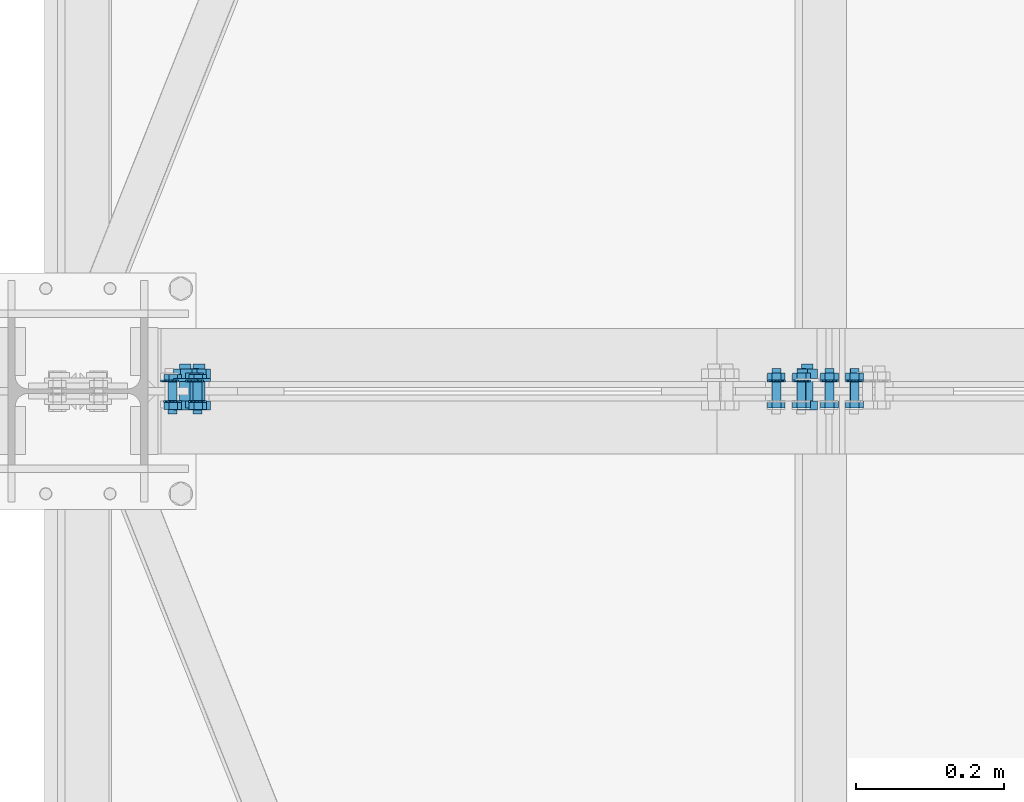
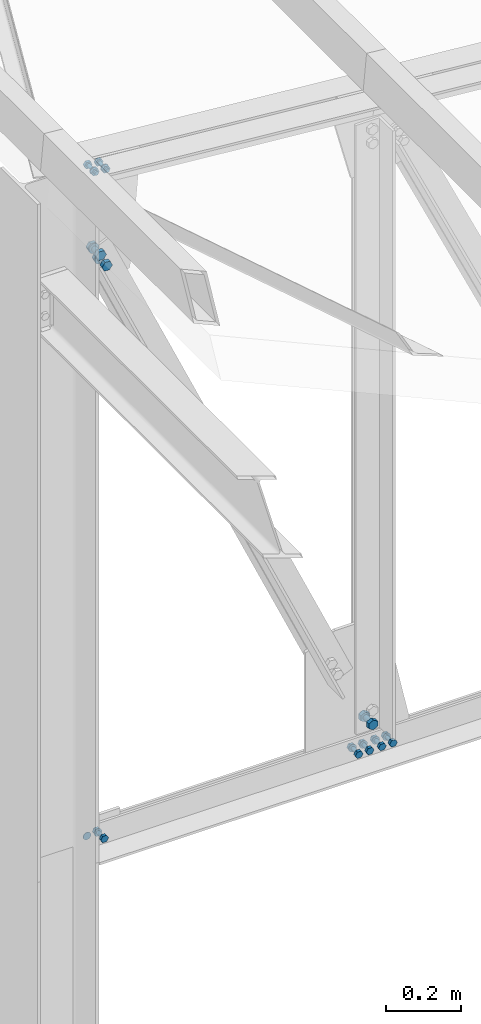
# One storey, part 74 of 251: 40 mechanical fasteners.
"""IFC4 building model written with IfcOpenShell, lengths in metres."""

import ifcopenshell
import ifcopenshell.guid

model = None  # the IFC model being written
_history = None  # IfcOwnerHistory: only IFC2X3 demands one
_inside = {}  # id of a spatial element -> (the spatial element, [elements in it])
_under = {}  # id of a project, library or spatial element -> (it, [spatial elements below it])
_declared = {}  # id of a project -> (the project, [libraries it declares])
_typed = {}  # id of a type object -> (the type object, [elements of that type])
_made_of = {}  # id of a material, layer set ... -> (it, [elements and type objects made of it])


def new_model(schema):
    """Start an empty IFC model of exactly this schema.

    Asked for "IFC4X3", IfcOpenShell would pick the latest addendum, in which some entities
    have other attributes; the version numbers below select the first issue.
    IFC2X3 requires an IfcOwnerHistory on every rooted entity: one is made here for all.
    """
    global model, _history
    if schema == "IFC4X3":
        model = ifcopenshell.file(schema_version=(4, 3, 0, 0))
    else:
        model = ifcopenshell.file(schema=schema)
    _inside.clear()
    _under.clear()
    _declared.clear()
    _typed.clear()
    _made_of.clear()
    _history = None
    if model.schema == "IFC2X3":
        org = make("IfcOrganization", Name="unknown")
        user = make(
            "IfcPersonAndOrganization",
            ThePerson=make("IfcPerson", FamilyName="unknown"),
            TheOrganization=org,
        )
        app = make(
            "IfcApplication",
            ApplicationDeveloper=org,
            Version="unknown",
            ApplicationFullName="unknown",
            ApplicationIdentifier="unknown",
        )
        _history = make(
            "IfcOwnerHistory",
            OwningUser=user,
            OwningApplication=app,
            ChangeAction="ADDED",
            CreationDate=0,
        )
    return model


def make(cls, **values):
    """One entity of the class cls with the attributes given. An attribute that is None is left unset."""
    return model.create_entity(
        cls, **{name: value for name, value in values.items() if value is not None}
    )


def rooted(cls, **values):
    """An entity with a GlobalId (a new one), such as an element, a storey or a relation."""
    return make(cls, GlobalId=ifcopenshell.guid.new(), OwnerHistory=_history, **values)


def si_unit(unit_type, name, prefix=None):
    """IfcSIUnit, for example si_unit("LENGTHUNIT", "METRE", prefix="MILLI")."""
    return make("IfcSIUnit", UnitType=unit_type, Prefix=prefix, Name=name)


def assignment(units):
    """IfcUnitAssignment: the units of a project."""
    return None if units is None else make("IfcUnitAssignment", Units=units)


def point(xyz):
    """IfcCartesianPoint."""
    return None if xyz is None else make("IfcCartesianPoint", Coordinates=xyz)


def direction(xyz):
    """IfcDirection."""
    return None if xyz is None else make("IfcDirection", DirectionRatios=xyz)


def frame(location, z_axis=None, x_axis=None):
    """IfcAxis2Placement3D, a coordinate frame: its origin and axes. An axis left out is left unset."""
    return make(
        "IfcAxis2Placement3D",
        Location=point(location),
        Axis=direction(z_axis),
        RefDirection=direction(x_axis),
    )


def origin_with_axes():
    """The frame at (0, 0, 0) with the z axis (0, 0, 1) and the x axis (1, 0, 0) written out."""
    return frame((0.0, 0.0, 0.0), z_axis=(0.0, 0.0, 1.0), x_axis=(1.0, 0.0, 0.0))


def place(relative_to, where):
    """IfcLocalPlacement: puts the frame where relative to a parent placement (None: the world)."""
    return make(
        "IfcLocalPlacement", PlacementRelTo=relative_to, RelativePlacement=where
    )


def context(
    kind, dimensions, precision=None, world=None, true_north=None, identifier=None
):
    """IfcGeometricRepresentationContext, for example the 3D "Model" context."""
    return make(
        "IfcGeometricRepresentationContext",
        ContextIdentifier=identifier,
        ContextType=kind,
        CoordinateSpaceDimension=dimensions,
        Precision=precision,
        WorldCoordinateSystem=world,
        TrueNorth=true_north,
    )


def project(units=None, contexts=None):
    """IfcProject with its units and contexts."""
    return rooted(
        "IfcProject",
        Name="project",
        RepresentationContexts=contexts,
        UnitsInContext=assignment(units),
    )


def spatial(cls, under=None, at=None, **own):
    """A site, building, storey or space (cls), placed at a placement, below another one or the project."""
    s = rooted(cls, ObjectPlacement=at, **own)
    if under is not None:
        _under.setdefault(under.id(), (under, []))[1].append(s)
    return s


def polyline(points):
    """IfcPolyline through the points."""
    return make("IfcPolyline", Points=[point(p) for p in points])


def outline(outer, holes=None, kind="AREA"):
    """IfcArbitraryClosedProfileDef: a profile drawn as a closed curve; with holes, ...WithVoids."""
    if holes is None:
        return make("IfcArbitraryClosedProfileDef", ProfileType=kind, OuterCurve=outer)
    return make(
        "IfcArbitraryProfileDefWithVoids",
        ProfileType=kind,
        OuterCurve=outer,
        InnerCurves=holes,
    )


def extrude(swept, where, along, depth):
    """IfcExtrudedAreaSolid: the profile swept, set in the frame where, extruded along a direction by depth."""
    return make(
        "IfcExtrudedAreaSolid",
        SweptArea=swept,
        Position=where,
        ExtrudedDirection=direction(along),
        Depth=depth,
    )


def shape(context_of_items, identifier, shape_type, items):
    """IfcShapeRepresentation: the items that make up one representation, for example the "Body"."""
    return make(
        "IfcShapeRepresentation",
        ContextOfItems=context_of_items,
        RepresentationIdentifier=identifier,
        RepresentationType=shape_type,
        Items=items,
    )


def made_of(thing, what):
    """Note that an element or type object is made of a material, layer set ...; save() writes the relation."""
    if what is not None:
        _made_of.setdefault(what.id(), (what, []))[1].append(thing)
    return thing


def type_object(cls, material=None, **own):
    """A type object (cls), such as IfcWallType, which elements share."""
    return made_of(rooted(cls, **own), material)


def element(
    cls,
    number,
    at=None,
    inside=None,
    cuts=None,
    type_object=None,
    material=None,
    context=None,
    identifier="Body",
    shape_type=None,
    held_by="IfcProductDefinitionShape",
    body=None,
    shapes=None,
    **own,
):
    """One element of the class cls, such as IfcWall. Its Tag is "e" and its number.

    at: its placement. inside: the storey or other place that contains it. cuts: it is an
    opening in that element (IfcRelVoidsElement). A single representation is given by context,
    identifier, shape_type and body (its items); several are given by shapes. held_by: the class
    of the entity that holds the representations. save() writes the other relations.
    """
    e = rooted(cls, Tag="e%d" % number, ObjectPlacement=at, **own)
    if body is not None:
        shapes = [shape(context, identifier, shape_type, body)]
    if shapes is not None:
        e.Representation = make(held_by, Representations=shapes)
    if inside is not None:
        _inside.setdefault(inside.id(), (inside, []))[1].append(e)
    if cuts is not None:
        rooted(
            "IfcRelVoidsElement", RelatingBuildingElement=cuts, RelatedOpeningElement=e
        )
    if type_object is not None:
        _typed.setdefault(type_object.id(), (type_object, []))[1].append(e)
    return made_of(e, material)


def aggregate(whole, parts):
    """IfcRelAggregates: a whole, such as a stair, and the parts it consists of."""
    return rooted("IfcRelAggregates", RelatingObject=whole, RelatedObjects=parts)


def save(model, path):
    """Write the relations noted so far, then the file.

    IfcRelAggregates (storeys below a building ...), IfcRelContainedInSpatialStructure (elements
    in a storey), IfcRelDefinesByType, IfcRelAssociatesMaterial and IfcRelDeclares: one each for
    every whole, place, type object, material and project.
    """
    for whole, parts in _under.values():
        aggregate(whole, parts)
    for where, things in _inside.values():
        rooted(
            "IfcRelContainedInSpatialStructure",
            RelatedElements=things,
            RelatingStructure=where,
        )
    for kind, things in _typed.values():
        rooted("IfcRelDefinesByType", RelatedObjects=things, RelatingType=kind)
    for what, things in _made_of.values():
        rooted("IfcRelAssociatesMaterial", RelatedObjects=things, RelatingMaterial=what)
    for by, libraries in _declared.values():
        rooted("IfcRelDeclares", RelatingContext=by, RelatedDefinitions=libraries)
    model.write(path)


model = new_model("IFC4")

# Units and contexts
model_context = context("Model", 3, precision=1e-05, world=origin_with_axes())
ifc_project = project(units=[si_unit("LENGTHUNIT", "METRE"), si_unit("AREAUNIT", "SQUARE_METRE"), si_unit("VOLUMEUNIT", "CUBIC_METRE"), si_unit("MASSUNIT", "GRAM", prefix="KILO"), si_unit("TIMEUNIT", "SECOND"), si_unit("PLANEANGLEUNIT", "RADIAN"), si_unit("SOLIDANGLEUNIT", "STERADIAN"), si_unit("THERMODYNAMICTEMPERATUREUNIT", "DEGREE_CELSIUS")], contexts=[model_context])

# Site, building, storey
placement_1 = place(None, origin_with_axes())
site = spatial("IfcSite", under=ifc_project, at=placement_1, Name="Italia", CompositionType="ELEMENT")
building = spatial("IfcBuilding", under=site, at=placement_1, Name="Deposito", CompositionType="ELEMENT")
storey = spatial("IfcBuildingStorey", under=building, at=placement_1, Name="Storey 0", CompositionType="ELEMENT", Elevation=0.0)

# Mechanical fasteners
mechanical_fastener_type_1 = type_object("IfcMechanicalFastenerType", Name="Reticolare 3", PredefinedType="BOLT")
placement_2 = place(placement_1, origin_with_axes())
mechanical_fastener_1_placement = place(placement_2, origin_with_axes())
element("IfcMechanicalFastener", 1, at=mechanical_fastener_1_placement, inside=storey, type_object=mechanical_fastener_type_1, Name="Reticolare 3", NominalDiameter=0.024, context=model_context, shape_type="SweptSolid", body=[
    extrude(outline(polyline([(0.0, 0.0), (-0.000409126, -0.00310564), (-0.00160789, -0.00600004), (-0.00351477, -0.00848532), (-0.00600004, -0.0103922), (-0.00889444, -0.011591), (-0.0120001, -0.0120001), (-0.0151057, -0.011591), (-0.0180001, -0.0103922), (-0.0204854, -0.00848532), (-0.0223923, -0.00600004), (-0.023591, -0.00310564), (-0.0240002, 0.0), (-0.023591, 0.00310564), (-0.0223923, 0.00600004), (-0.0204854, 0.00848532), (-0.0180001, 0.0103922), (-0.0151057, 0.011591), (-0.0120001, 0.0120001), (-0.00889444, 0.011591), (-0.00600004, 0.0103922), (-0.00351477, 0.00848532), (-0.00160789, 0.00600004), (-0.000409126, 0.00310564), (0.0, 0.0)])), frame((6.18605, 5.015, 5.007), z_axis=(0.0, -1.0, 0.0), x_axis=(1.0, 0.0, 0.0)), (0.0, 0.0, 1.0), 0.00199986),
])
mechanical_fastener_type_2 = type_object("IfcMechanicalFastenerType", Name="Reticolare 3", PredefinedType="BOLT")
mechanical_fastener_2_placement = place(placement_2, origin_with_axes())
element("IfcMechanicalFastener", 2, at=mechanical_fastener_2_placement, inside=storey, type_object=mechanical_fastener_type_2, Name="Reticolare 3", NominalDiameter=0.0119999, context=model_context, shape_type="SweptSolid", body=[
    extrude(outline(polyline([(0.0, 0.0), (-0.0120001, 0.0), (-0.0180001, 0.0103922), (-0.0120001, 0.0207844), (0.0, 0.0207844), (0.00600004, 0.0103922), (0.0, 0.0)])), frame((6.21405, 4.987, 4.99661), z_axis=(0.0, -1.0, 0.0), x_axis=(1.0, 0.0, 0.0)), (0.0, 0.0, 1.0), 0.00960016),
])
mechanical_fastener_type_3 = type_object("IfcMechanicalFastenerType", Name="Reticolare 3", PredefinedType="BOLT")
mechanical_fastener_3_placement = place(placement_2, origin_with_axes())
element("IfcMechanicalFastener", 3, at=mechanical_fastener_3_placement, inside=storey, type_object=mechanical_fastener_type_3, Name="Reticolare 3", NominalDiameter=0.012, context=model_context, shape_type="SweptSolid", body=[
    extrude(outline(polyline([(0.0, 0.0), (-0.000204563, -0.00155306), (-0.000803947, -0.00299978), (-0.00175762, -0.00424242), (-0.00300026, -0.00519609), (-0.00444698, -0.00579548), (-0.00600004, -0.00600004), (-0.0075531, -0.00579548), (-0.00899982, -0.00519609), (-0.0102425, -0.00424242), (-0.0111961, -0.00299978), (-0.0117955, -0.00155306), (-0.0120001, 0.0), (-0.0117955, 0.00155306), (-0.0111961, 0.00299978), (-0.0102425, 0.00424242), (-0.00899982, 0.00519609), (-0.0075531, 0.00579548), (-0.00600004, 0.00600004), (-0.00444698, 0.00579548), (-0.00300026, 0.00519609), (-0.00175762, 0.00424242), (-0.000803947, 0.00299978), (-0.000204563, 0.00155306), (0.0, 0.0)])), frame((6.21405, 5.031, 5.007), z_axis=(0.0, -1.0, 0.0), x_axis=(1.0, 0.0, 0.0)), (0.0, 0.0, 1.0), 0.0440001),
])
mechanical_fastener_type_4 = type_object("IfcMechanicalFastenerType", Name="Reticolare 3", PredefinedType="BOLT")
mechanical_fastener_4_placement = place(placement_2, origin_with_axes())
element("IfcMechanicalFastener", 4, at=mechanical_fastener_4_placement, inside=storey, type_object=mechanical_fastener_type_4, Name="Reticolare 3", NominalDiameter=0.0119999, context=model_context, shape_type="SweptSolid", body=[
    extrude(outline(polyline([(0.0, 0.0), (-0.0120001, 0.0), (-0.0180001, 0.0103922), (-0.0120001, 0.0207844), (0.0, 0.0207844), (0.00600004, 0.0103922), (0.0, 0.0)])), frame((6.21405, 5.0246, 4.99661), z_axis=(0.0, -1.0, 0.0), x_axis=(1.0, 0.0, 0.0)), (0.0, 0.0, 1.0), 0.00960016),
])
mechanical_fastener_type_5 = type_object("IfcMechanicalFastenerType", Name="Reticolare 3", PredefinedType="BOLT")
mechanical_fastener_5_placement = place(placement_2, origin_with_axes())
element("IfcMechanicalFastener", 5, at=mechanical_fastener_5_placement, inside=storey, type_object=mechanical_fastener_type_5, Name="Reticolare 3", NominalDiameter=0.024, context=model_context, shape_type="SweptSolid", body=[
    extrude(outline(polyline([(0.0, 0.0), (-0.000409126, -0.00310564), (-0.00160789, -0.00600004), (-0.00351477, -0.00848532), (-0.00600004, -0.0103922), (-0.00889444, -0.011591), (-0.0120001, -0.0120001), (-0.0151057, -0.011591), (-0.0180001, -0.0103922), (-0.0204854, -0.00848532), (-0.0223923, -0.00600004), (-0.023591, -0.00310564), (-0.0240002, 0.0), (-0.023591, 0.00310564), (-0.0223923, 0.00600004), (-0.0204854, 0.00848532), (-0.0180001, 0.0103922), (-0.0151057, 0.011591), (-0.0120001, 0.0120001), (-0.00889444, 0.011591), (-0.00600004, 0.0103922), (-0.00351477, 0.00848532), (-0.00160789, 0.00600004), (-0.000409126, 0.00310564), (0.0, 0.0)])), frame((6.22005, 5.015, 5.007), z_axis=(0.0, -1.0, 0.0), x_axis=(1.0, 0.0, 0.0)), (0.0, 0.0, 1.0), 0.00199986),
])
mechanical_fastener_type_6 = type_object("IfcMechanicalFastenerType", Name="Reticolare 3", PredefinedType="BOLT")
mechanical_fastener_6_placement = place(placement_2, origin_with_axes())
element("IfcMechanicalFastener", 6, at=mechanical_fastener_6_placement, inside=storey, type_object=mechanical_fastener_type_6, Name="Reticolare 3", NominalDiameter=0.0119999, context=model_context, shape_type="SweptSolid", body=[
    extrude(outline(polyline([(0.0, 0.0), (-0.0120001, 0.0), (-0.0180001, 0.0103922), (-0.0120001, 0.0207844), (0.0, 0.0207844), (0.00600004, 0.0103922), (0.0, 0.0)])), frame((7.03647, 4.987, 4.99661), z_axis=(0.0, -1.0, 0.0), x_axis=(1.0, 0.0, 0.0)), (0.0, 0.0, 1.0), 0.00960016),
])
mechanical_fastener_type_7 = type_object("IfcMechanicalFastenerType", Name="Reticolare 3", PredefinedType="BOLT")
mechanical_fastener_7_placement = place(placement_2, origin_with_axes())
element("IfcMechanicalFastener", 7, at=mechanical_fastener_7_placement, inside=storey, type_object=mechanical_fastener_type_7, Name="Reticolare 3", NominalDiameter=0.012, context=model_context, shape_type="SweptSolid", body=[
    extrude(outline(polyline([(0.0, 0.0), (-0.000204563, -0.00155306), (-0.000803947, -0.00299978), (-0.00175762, -0.00424242), (-0.00300026, -0.00519609), (-0.00444698, -0.00579548), (-0.00600004, -0.00600004), (-0.0075531, -0.00579548), (-0.00899982, -0.00519609), (-0.0102425, -0.00424242), (-0.0111961, -0.00299978), (-0.0117955, -0.00155306), (-0.0120001, 0.0), (-0.0117955, 0.00155306), (-0.0111961, 0.00299978), (-0.0102425, 0.00424242), (-0.00899982, 0.00519609), (-0.0075531, 0.00579548), (-0.00600004, 0.00600004), (-0.00444698, 0.00579548), (-0.00300026, 0.00519609), (-0.00175762, 0.00424242), (-0.000803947, 0.00299978), (-0.000204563, 0.00155306), (0.0, 0.0)])), frame((7.03647, 5.031, 5.007), z_axis=(0.0, -1.0, 0.0), x_axis=(1.0, 0.0, 0.0)), (0.0, 0.0, 1.0), 0.0440001),
])
mechanical_fastener_type_8 = type_object("IfcMechanicalFastenerType", Name="Reticolare 3", PredefinedType="BOLT")
mechanical_fastener_8_placement = place(placement_2, origin_with_axes())
element("IfcMechanicalFastener", 8, at=mechanical_fastener_8_placement, inside=storey, type_object=mechanical_fastener_type_8, Name="Reticolare 3", NominalDiameter=0.0119999, context=model_context, shape_type="SweptSolid", body=[
    extrude(outline(polyline([(0.0, 0.0), (-0.0120001, 0.0), (-0.0180001, 0.0103922), (-0.0120001, 0.0207844), (0.0, 0.0207844), (0.00600004, 0.0103922), (0.0, 0.0)])), frame((7.03647, 5.0246, 4.99661), z_axis=(0.0, -1.0, 0.0), x_axis=(1.0, 0.0, 0.0)), (0.0, 0.0, 1.0), 0.00960016),
])
mechanical_fastener_type_9 = type_object("IfcMechanicalFastenerType", Name="Reticolare 3", PredefinedType="BOLT")
mechanical_fastener_9_placement = place(placement_2, origin_with_axes())
element("IfcMechanicalFastener", 9, at=mechanical_fastener_9_placement, inside=storey, type_object=mechanical_fastener_type_9, Name="Reticolare 3", NominalDiameter=0.024, context=model_context, shape_type="SweptSolid", body=[
    extrude(outline(polyline([(0.0, 0.0), (-0.000409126, -0.00310564), (-0.00160789, -0.00600004), (-0.00351477, -0.00848532), (-0.00600004, -0.0103922), (-0.00889444, -0.011591), (-0.0120001, -0.0120001), (-0.0151057, -0.011591), (-0.0180001, -0.0103922), (-0.0204854, -0.00848532), (-0.0223923, -0.00600004), (-0.023591, -0.00310564), (-0.0240002, 0.0), (-0.023591, 0.00310564), (-0.0223923, 0.00600004), (-0.0204854, 0.00848532), (-0.0180001, 0.0103922), (-0.0151057, 0.011591), (-0.0120001, 0.0120001), (-0.00889444, 0.011591), (-0.00600004, 0.0103922), (-0.00351477, 0.00848532), (-0.00160789, 0.00600004), (-0.000409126, 0.00310564), (0.0, 0.0)])), frame((7.04247, 5.015, 5.007), z_axis=(0.0, -1.0, 0.0), x_axis=(1.0, 0.0, 0.0)), (0.0, 0.0, 1.0), 0.00199986),
])
mechanical_fastener_type_10 = type_object("IfcMechanicalFastenerType", Name="Reticolare 3", PredefinedType="BOLT")
mechanical_fastener_10_placement = place(placement_2, origin_with_axes())
element("IfcMechanicalFastener", 10, at=mechanical_fastener_10_placement, inside=storey, type_object=mechanical_fastener_type_10, Name="Reticolare 3", NominalDiameter=0.0119999, context=model_context, shape_type="SweptSolid", body=[
    extrude(outline(polyline([(0.0, 0.0), (-0.0120001, 0.0), (-0.0180001, 0.0103922), (-0.0120001, 0.0207844), (0.0, 0.0207844), (0.00600004, 0.0103922), (0.0, 0.0)])), frame((7.00247, 4.987, 4.99661), z_axis=(0.0, -1.0, 0.0), x_axis=(1.0, 0.0, 0.0)), (0.0, 0.0, 1.0), 0.00960016),
])
mechanical_fastener_type_11 = type_object("IfcMechanicalFastenerType", Name="Reticolare 3", PredefinedType="BOLT")
mechanical_fastener_11_placement = place(placement_2, origin_with_axes())
element("IfcMechanicalFastener", 11, at=mechanical_fastener_11_placement, inside=storey, type_object=mechanical_fastener_type_11, Name="Reticolare 3", NominalDiameter=0.012, context=model_context, shape_type="SweptSolid", body=[
    extrude(outline(polyline([(0.0, 0.0), (-0.000204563, -0.00155306), (-0.000803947, -0.00299978), (-0.00175762, -0.00424242), (-0.00300026, -0.00519609), (-0.00444698, -0.00579548), (-0.00600004, -0.00600004), (-0.0075531, -0.00579548), (-0.00899982, -0.00519609), (-0.0102425, -0.00424242), (-0.0111961, -0.00299978), (-0.0117955, -0.00155306), (-0.0120001, 0.0), (-0.0117955, 0.00155306), (-0.0111961, 0.00299978), (-0.0102425, 0.00424242), (-0.00899982, 0.00519609), (-0.0075531, 0.00579548), (-0.00600004, 0.00600004), (-0.00444698, 0.00579548), (-0.00300026, 0.00519609), (-0.00175762, 0.00424242), (-0.000803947, 0.00299978), (-0.000204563, 0.00155306), (0.0, 0.0)])), frame((7.00247, 5.031, 5.007), z_axis=(0.0, -1.0, 0.0), x_axis=(1.0, 0.0, 0.0)), (0.0, 0.0, 1.0), 0.0440001),
])
mechanical_fastener_type_12 = type_object("IfcMechanicalFastenerType", Name="Reticolare 3", PredefinedType="BOLT")
mechanical_fastener_12_placement = place(placement_2, origin_with_axes())
element("IfcMechanicalFastener", 12, at=mechanical_fastener_12_placement, inside=storey, type_object=mechanical_fastener_type_12, Name="Reticolare 3", NominalDiameter=0.0119999, context=model_context, shape_type="SweptSolid", body=[
    extrude(outline(polyline([(0.0, 0.0), (-0.0120001, 0.0), (-0.0180001, 0.0103922), (-0.0120001, 0.0207844), (0.0, 0.0207844), (0.00600004, 0.0103922), (0.0, 0.0)])), frame((7.00247, 5.0246, 4.99661), z_axis=(0.0, -1.0, 0.0), x_axis=(1.0, 0.0, 0.0)), (0.0, 0.0, 1.0), 0.00960016),
])
mechanical_fastener_type_13 = type_object("IfcMechanicalFastenerType", Name="Reticolare 3", PredefinedType="BOLT")
mechanical_fastener_13_placement = place(placement_2, origin_with_axes())
element("IfcMechanicalFastener", 13, at=mechanical_fastener_13_placement, inside=storey, type_object=mechanical_fastener_type_13, Name="Reticolare 3", NominalDiameter=0.024, context=model_context, shape_type="SweptSolid", body=[
    extrude(outline(polyline([(0.0, 0.0), (-0.000409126, -0.00310564), (-0.00160789, -0.00600004), (-0.00351477, -0.00848532), (-0.00600004, -0.0103922), (-0.00889444, -0.011591), (-0.0120001, -0.0120001), (-0.0151057, -0.011591), (-0.0180001, -0.0103922), (-0.0204854, -0.00848532), (-0.0223923, -0.00600004), (-0.023591, -0.00310564), (-0.0240002, 0.0), (-0.023591, 0.00310564), (-0.0223923, 0.00600004), (-0.0204854, 0.00848532), (-0.0180001, 0.0103922), (-0.0151057, 0.011591), (-0.0120001, 0.0120001), (-0.00889444, 0.011591), (-0.00600004, 0.0103922), (-0.00351477, 0.00848532), (-0.00160789, 0.00600004), (-0.000409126, 0.00310564), (0.0, 0.0)])), frame((7.00847, 5.015, 5.007), z_axis=(0.0, -1.0, 0.0), x_axis=(1.0, 0.0, 0.0)), (0.0, 0.0, 1.0), 0.00199986),
])
mechanical_fastener_type_14 = type_object("IfcMechanicalFastenerType", Name="Reticolare 3", PredefinedType="BOLT")
mechanical_fastener_14_placement = place(placement_2, origin_with_axes())
element("IfcMechanicalFastener", 14, at=mechanical_fastener_14_placement, inside=storey, type_object=mechanical_fastener_type_14, Name="Reticolare 3", NominalDiameter=0.0119999, context=model_context, shape_type="SweptSolid", body=[
    extrude(outline(polyline([(0.0, 0.0), (-0.0120001, 0.0), (-0.0180001, 0.0103922), (-0.0120001, 0.0207844), (0.0, 0.0207844), (0.00600004, 0.0103922), (0.0, 0.0)])), frame((7.07447, 4.987, 4.99661), z_axis=(0.0, -1.0, 0.0), x_axis=(1.0, 0.0, 0.0)), (0.0, 0.0, 1.0), 0.00960016),
])
mechanical_fastener_type_15 = type_object("IfcMechanicalFastenerType", Name="Reticolare 3", PredefinedType="BOLT")
mechanical_fastener_15_placement = place(placement_2, origin_with_axes())
element("IfcMechanicalFastener", 15, at=mechanical_fastener_15_placement, inside=storey, type_object=mechanical_fastener_type_15, Name="Reticolare 3", NominalDiameter=0.012, context=model_context, shape_type="SweptSolid", body=[
    extrude(outline(polyline([(0.0, 0.0), (-0.000204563, -0.00155306), (-0.000803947, -0.00299978), (-0.00175762, -0.00424242), (-0.00300026, -0.00519609), (-0.00444698, -0.00579548), (-0.00600004, -0.00600004), (-0.0075531, -0.00579548), (-0.00899982, -0.00519609), (-0.0102425, -0.00424242), (-0.0111961, -0.00299978), (-0.0117955, -0.00155306), (-0.0120001, 0.0), (-0.0117955, 0.00155306), (-0.0111961, 0.00299978), (-0.0102425, 0.00424242), (-0.00899982, 0.00519609), (-0.0075531, 0.00579548), (-0.00600004, 0.00600004), (-0.00444698, 0.00579548), (-0.00300026, 0.00519609), (-0.00175762, 0.00424242), (-0.000803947, 0.00299978), (-0.000204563, 0.00155306), (0.0, 0.0)])), frame((7.07447, 5.031, 5.007), z_axis=(0.0, -1.0, 0.0), x_axis=(1.0, 0.0, 0.0)), (0.0, 0.0, 1.0), 0.0440001),
])
mechanical_fastener_type_16 = type_object("IfcMechanicalFastenerType", Name="Reticolare 3", PredefinedType="BOLT")
mechanical_fastener_16_placement = place(placement_2, origin_with_axes())
element("IfcMechanicalFastener", 16, at=mechanical_fastener_16_placement, inside=storey, type_object=mechanical_fastener_type_16, Name="Reticolare 3", NominalDiameter=0.0119999, context=model_context, shape_type="SweptSolid", body=[
    extrude(outline(polyline([(0.0, 0.0), (-0.0120001, 0.0), (-0.0180001, 0.0103922), (-0.0120001, 0.0207844), (0.0, 0.0207844), (0.00600004, 0.0103922), (0.0, 0.0)])), frame((7.07447, 5.0246, 4.99661), z_axis=(0.0, -1.0, 0.0), x_axis=(1.0, 0.0, 0.0)), (0.0, 0.0, 1.0), 0.00960016),
])
mechanical_fastener_type_17 = type_object("IfcMechanicalFastenerType", Name="Reticolare 3", PredefinedType="BOLT")
mechanical_fastener_17_placement = place(placement_2, origin_with_axes())
element("IfcMechanicalFastener", 17, at=mechanical_fastener_17_placement, inside=storey, type_object=mechanical_fastener_type_17, Name="Reticolare 3", NominalDiameter=0.024, context=model_context, shape_type="SweptSolid", body=[
    extrude(outline(polyline([(0.0, 0.0), (-0.000409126, -0.00310564), (-0.00160789, -0.00600004), (-0.00351477, -0.00848532), (-0.00600004, -0.0103922), (-0.00889444, -0.011591), (-0.0120001, -0.0120001), (-0.0151057, -0.011591), (-0.0180001, -0.0103922), (-0.0204854, -0.00848532), (-0.0223923, -0.00600004), (-0.023591, -0.00310564), (-0.0240002, 0.0), (-0.023591, 0.00310564), (-0.0223923, 0.00600004), (-0.0204854, 0.00848532), (-0.0180001, 0.0103922), (-0.0151057, 0.011591), (-0.0120001, 0.0120001), (-0.00889444, 0.011591), (-0.00600004, 0.0103922), (-0.00351477, 0.00848532), (-0.00160789, 0.00600004), (-0.000409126, 0.00310564), (0.0, 0.0)])), frame((7.08047, 5.015, 5.007), z_axis=(0.0, -1.0, 0.0), x_axis=(1.0, 0.0, 0.0)), (0.0, 0.0, 1.0), 0.00199986),
])
mechanical_fastener_type_18 = type_object("IfcMechanicalFastenerType", Name="Reticolare 3", PredefinedType="BOLT")
mechanical_fastener_18_placement = place(placement_2, origin_with_axes())
element("IfcMechanicalFastener", 18, at=mechanical_fastener_18_placement, inside=storey, type_object=mechanical_fastener_type_18, Name="Reticolare 3", NominalDiameter=0.0119999, context=model_context, shape_type="SweptSolid", body=[
    extrude(outline(polyline([(0.0, 0.0), (-0.0120001, 0.0), (-0.0180001, 0.0103922), (-0.0120001, 0.0207844), (0.0, 0.0207844), (0.00600004, 0.0103922), (0.0, 0.0)])), frame((7.10847, 4.987, 4.99661), z_axis=(0.0, -1.0, 0.0), x_axis=(1.0, 0.0, 0.0)), (0.0, 0.0, 1.0), 0.00960016),
])
mechanical_fastener_type_19 = type_object("IfcMechanicalFastenerType", Name="Reticolare 3", PredefinedType="BOLT")
mechanical_fastener_19_placement = place(placement_2, origin_with_axes())
element("IfcMechanicalFastener", 19, at=mechanical_fastener_19_placement, inside=storey, type_object=mechanical_fastener_type_19, Name="Reticolare 3", NominalDiameter=0.012, context=model_context, shape_type="SweptSolid", body=[
    extrude(outline(polyline([(0.0, 0.0), (-0.000204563, -0.00155306), (-0.000803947, -0.00299978), (-0.00175762, -0.00424242), (-0.00300026, -0.00519609), (-0.00444698, -0.00579548), (-0.00600004, -0.00600004), (-0.0075531, -0.00579548), (-0.00899982, -0.00519609), (-0.0102425, -0.00424242), (-0.0111961, -0.00299978), (-0.0117955, -0.00155306), (-0.0120001, 0.0), (-0.0117955, 0.00155306), (-0.0111961, 0.00299978), (-0.0102425, 0.00424242), (-0.00899982, 0.00519609), (-0.0075531, 0.00579548), (-0.00600004, 0.00600004), (-0.00444698, 0.00579548), (-0.00300026, 0.00519609), (-0.00175762, 0.00424242), (-0.000803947, 0.00299978), (-0.000204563, 0.00155306), (0.0, 0.0)])), frame((7.10847, 5.031, 5.007), z_axis=(0.0, -1.0, 0.0), x_axis=(1.0, 0.0, 0.0)), (0.0, 0.0, 1.0), 0.0440001),
])
mechanical_fastener_type_20 = type_object("IfcMechanicalFastenerType", Name="Reticolare 3", PredefinedType="BOLT")
mechanical_fastener_20_placement = place(placement_2, origin_with_axes())
element("IfcMechanicalFastener", 20, at=mechanical_fastener_20_placement, inside=storey, type_object=mechanical_fastener_type_20, Name="Reticolare 3", NominalDiameter=0.0119999, context=model_context, shape_type="SweptSolid", body=[
    extrude(outline(polyline([(0.0, 0.0), (-0.0120001, 0.0), (-0.0180001, 0.0103922), (-0.0120001, 0.0207844), (0.0, 0.0207844), (0.00600004, 0.0103922), (0.0, 0.0)])), frame((7.10847, 5.0246, 4.99661), z_axis=(0.0, -1.0, 0.0), x_axis=(1.0, 0.0, 0.0)), (0.0, 0.0, 1.0), 0.00960016),
])
mechanical_fastener_type_21 = type_object("IfcMechanicalFastenerType", Name="Reticolare 3", PredefinedType="BOLT")
mechanical_fastener_21_placement = place(placement_2, origin_with_axes())
element("IfcMechanicalFastener", 21, at=mechanical_fastener_21_placement, inside=storey, type_object=mechanical_fastener_type_21, Name="Reticolare 3", NominalDiameter=0.024, context=model_context, shape_type="SweptSolid", body=[
    extrude(outline(polyline([(0.0, 0.0), (-0.000409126, -0.00310564), (-0.00160789, -0.00600004), (-0.00351477, -0.00848532), (-0.00600004, -0.0103922), (-0.00889444, -0.011591), (-0.0120001, -0.0120001), (-0.0151057, -0.011591), (-0.0180001, -0.0103922), (-0.0204854, -0.00848532), (-0.0223923, -0.00600004), (-0.023591, -0.00310564), (-0.0240002, 0.0), (-0.023591, 0.00310564), (-0.0223923, 0.00600004), (-0.0204854, 0.00848532), (-0.0180001, 0.0103922), (-0.0151057, 0.011591), (-0.0120001, 0.0120001), (-0.00889444, 0.011591), (-0.00600004, 0.0103922), (-0.00351477, 0.00848532), (-0.00160789, 0.00600004), (-0.000409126, 0.00310564), (0.0, 0.0)])), frame((7.11447, 5.015, 5.007), z_axis=(0.0, -1.0, 0.0), x_axis=(1.0, 0.0, 0.0)), (0.0, 0.0, 1.0), 0.00199986),
])
mechanical_fastener_type_22 = type_object("IfcMechanicalFastenerType", Name="Reticolare 3", PredefinedType="BOLT")
mechanical_fastener_22_placement = place(placement_2, origin_with_axes())
element("IfcMechanicalFastener", 22, at=mechanical_fastener_22_placement, inside=storey, type_object=mechanical_fastener_type_22, Name="Reticolare 3", NominalDiameter=0.016, context=model_context, shape_type="SweptSolid", body=[
    extrude(outline(polyline([(0.0, 0.0), (0.0, -0.0160003), (-0.0138564, -0.0240002), (-0.0277128, -0.0160003), (-0.0277128, 0.0), (-0.0138564, 0.0079999), (0.0, 0.0)])), frame((7.05233, 4.987, 5.09953), z_axis=(0.0, -1.0, 0.0), x_axis=(1.0, 0.0, 0.0)), (0.0, 0.0, 1.0), 0.0128002),
])
mechanical_fastener_type_23 = type_object("IfcMechanicalFastenerType", Name="Reticolare 3", PredefinedType="BOLT")
mechanical_fastener_23_placement = place(placement_2, origin_with_axes())
element("IfcMechanicalFastener", 23, at=mechanical_fastener_23_placement, inside=storey, type_object=mechanical_fastener_type_23, Name="Reticolare 3", NominalDiameter=0.016, context=model_context, shape_type="SweptSolid", body=[
    extrude(outline(polyline([(0.0, 0.0), (-0.000272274, -0.00207043), (-0.00107193, -0.00400019), (-0.00234318, -0.00565672), (-0.00399971, -0.00692797), (-0.00592947, -0.00772762), (-0.0079999, -0.0079999), (-0.0100703, -0.00772762), (-0.0120001, -0.00692797), (-0.0136566, -0.00565672), (-0.0149279, -0.00400019), (-0.0157275, -0.00207043), (-0.0159998, 0.0), (-0.0157275, 0.00207043), (-0.0149279, 0.00400019), (-0.0136566, 0.00565672), (-0.0120001, 0.00692797), (-0.0100703, 0.00772762), (-0.0079999, 0.0079999), (-0.00592947, 0.00772762), (-0.00399971, 0.00692797), (-0.00234318, 0.00565672), (-0.00107193, 0.00400019), (-0.000272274, 0.00207043), (0.0, 0.0)])), frame((7.04647, 5.037, 5.09153), z_axis=(0.0, -1.0, 0.0), x_axis=(1.0, 0.0, 0.0)), (0.0, 0.0, 1.0), 0.0500002),
])
mechanical_fastener_type_24 = type_object("IfcMechanicalFastenerType", Name="Reticolare 3", PredefinedType="BOLT")
mechanical_fastener_24_placement = place(placement_2, origin_with_axes())
element("IfcMechanicalFastener", 24, at=mechanical_fastener_24_placement, inside=storey, type_object=mechanical_fastener_type_24, Name="Reticolare 3", NominalDiameter=0.016, context=model_context, shape_type="SweptSolid", body=[
    extrude(outline(polyline([(0.0, 0.0), (0.0, -0.0160003), (-0.0138564, -0.0240002), (-0.0277128, -0.0160003), (-0.0277128, 0.0), (-0.0138564, 0.0079999), (0.0, 0.0)])), frame((7.05233, 5.0298, 5.09953), z_axis=(0.0, -1.0, 0.0), x_axis=(1.0, 0.0, 0.0)), (0.0, 0.0, 1.0), 0.0127997),
])
mechanical_fastener_type_25 = type_object("IfcMechanicalFastenerType", Name="Reticolare 3", PredefinedType="BOLT")
mechanical_fastener_25_placement = place(placement_2, origin_with_axes())
element("IfcMechanicalFastener", 25, at=mechanical_fastener_25_placement, inside=storey, type_object=mechanical_fastener_type_25, Name="Reticolare 3", NominalDiameter=0.012, context=model_context, shape_type="SweptSolid", body=[
    extrude(outline(polyline([(0.0, 0.0), (0.0119548, 0.00104237), (0.0188351, -0.00878954), (0.0137606, -0.0196638), (0.00180578, -0.0207062), (-0.0050745, -0.0108743), (0.0, 0.0)])), frame((6.18524, 5.013, 7.21179), z_axis=(0.0, 1.0, 0.0), x_axis=(-1.0, 0.0, 0.0)), (0.0, 0.0, 1.0), 0.00960016),
])
mechanical_fastener_type_26 = type_object("IfcMechanicalFastenerType", Name="Reticolare 3", PredefinedType="BOLT")
mechanical_fastener_26_placement = place(placement_2, origin_with_axes())
element("IfcMechanicalFastener", 26, at=mechanical_fastener_26_placement, inside=storey, type_object=mechanical_fastener_type_26, Name="Reticolare 3", NominalDiameter=0.012, context=model_context, shape_type="SweptSolid", body=[
    extrude(outline(polyline([(0.0, 0.0), (-0.000204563, -0.00155306), (-0.000803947, -0.00299978), (-0.00175762, -0.00424242), (-0.00300026, -0.00519609), (-0.00444698, -0.00579548), (-0.00600004, -0.00600004), (-0.0075531, -0.00579548), (-0.00899982, -0.00519609), (-0.0102425, -0.00424242), (-0.0111961, -0.00299978), (-0.0117955, -0.00155306), (-0.0120001, 0.0), (-0.0117955, 0.00155306), (-0.0111961, 0.00299978), (-0.0102425, 0.00424242), (-0.00899982, 0.00519609), (-0.0075531, 0.00579548), (-0.00600004, 0.00600004), (-0.00444698, 0.00579548), (-0.00300026, 0.00519609), (-0.00175762, 0.00424242), (-0.000803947, 0.00299978), (-0.000204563, 0.00155306), (0.0, 0.0)])), frame((6.17236, 4.969, 7.20196), z_axis=(0.0, 1.0, 0.0), x_axis=(-1.0, 0.0, 0.0)), (0.0, 0.0, 1.0), 0.0440001),
])
mechanical_fastener_type_27 = type_object("IfcMechanicalFastenerType", Name="Reticolare 3", PredefinedType="BOLT")
mechanical_fastener_27_placement = place(placement_2, origin_with_axes())
element("IfcMechanicalFastener", 27, at=mechanical_fastener_27_placement, inside=storey, type_object=mechanical_fastener_type_27, Name="Reticolare 3", NominalDiameter=0.012, context=model_context, shape_type="SweptSolid", body=[
    extrude(outline(polyline([(0.0, 0.0), (0.0119548, 0.00104237), (0.0188351, -0.00878954), (0.0137606, -0.0196638), (0.00180578, -0.0207062), (-0.0050745, -0.0108743), (0.0, 0.0)])), frame((6.18524, 4.9754, 7.21179), z_axis=(0.0, 1.0, 0.0), x_axis=(-1.0, 0.0, 0.0)), (0.0, 0.0, 1.0), 0.00960016),
])
mechanical_fastener_type_28 = type_object("IfcMechanicalFastenerType", Name="Reticolare 3", PredefinedType="BOLT")
mechanical_fastener_28_placement = place(placement_2, origin_with_axes())
element("IfcMechanicalFastener", 28, at=mechanical_fastener_28_placement, inside=storey, type_object=mechanical_fastener_type_28, Name="Reticolare 3", NominalDiameter=0.024, context=model_context, shape_type="SweptSolid", body=[
    extrude(outline(polyline([(0.0, 0.0), (-0.000409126, -0.00310564), (-0.00160789, -0.00600004), (-0.00351477, -0.00848532), (-0.00600004, -0.0103922), (-0.00889444, -0.011591), (-0.0120001, -0.0120001), (-0.0151057, -0.011591), (-0.0180001, -0.0103922), (-0.0204854, -0.00848532), (-0.0223923, -0.00600004), (-0.023591, -0.00310564), (-0.0240002, 0.0), (-0.023591, 0.00310564), (-0.0223923, 0.00600004), (-0.0204854, 0.00848532), (-0.0180001, 0.0103922), (-0.0151057, 0.011591), (-0.0120001, 0.0120001), (-0.00889444, 0.011591), (-0.00600004, 0.0103922), (-0.00351477, 0.00848532), (-0.00160789, 0.00600004), (-0.000409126, 0.00310564), (0.0, 0.0)])), frame((6.16636, 4.985, 7.20196), z_axis=(0.0, 1.0, 0.0), x_axis=(-1.0, 0.0, 0.0)), (0.0, 0.0, 1.0), 0.00199986),
])
mechanical_fastener_type_29 = type_object("IfcMechanicalFastenerType", Name="Reticolare 3", PredefinedType="BOLT")
mechanical_fastener_29_placement = place(placement_2, origin_with_axes())
element("IfcMechanicalFastener", 29, at=mechanical_fastener_29_placement, inside=storey, type_object=mechanical_fastener_type_29, Name="Reticolare 3", NominalDiameter=0.0119995, context=model_context, shape_type="SweptSolid", body=[
    extrude(outline(polyline([(0.0, 0.0), (0.0119543, 0.00104284), (0.0188346, -0.00878906), (0.0137601, -0.0196633), (0.00180531, -0.0207057), (-0.0050745, -0.0108743), (0.0, 0.0)])), frame((6.21912, 5.013, 7.20884), z_axis=(0.0, 1.0, 0.0), x_axis=(-1.0, 0.0, 0.0)), (0.0, 0.0, 1.0), 0.00960016),
])
mechanical_fastener_type_30 = type_object("IfcMechanicalFastenerType", Name="Reticolare 3", PredefinedType="BOLT")
mechanical_fastener_30_placement = place(placement_2, origin_with_axes())
element("IfcMechanicalFastener", 30, at=mechanical_fastener_30_placement, inside=storey, type_object=mechanical_fastener_type_30, Name="Reticolare 3", NominalDiameter=0.012, context=model_context, shape_type="SweptSolid", body=[
    extrude(outline(polyline([(0.0, 0.0), (-0.000204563, -0.00155306), (-0.000803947, -0.00299978), (-0.00175762, -0.00424242), (-0.00300026, -0.00519609), (-0.00444698, -0.00579548), (-0.00600004, -0.00600004), (-0.0075531, -0.00579548), (-0.00899982, -0.00519609), (-0.0102425, -0.00424242), (-0.0111961, -0.00299978), (-0.0117955, -0.00155306), (-0.0120001, 0.0), (-0.0117955, 0.00155306), (-0.0111961, 0.00299978), (-0.0102425, 0.00424242), (-0.00899982, 0.00519609), (-0.0075531, 0.00579548), (-0.00600004, 0.00600004), (-0.00444698, 0.00579548), (-0.00300026, 0.00519609), (-0.00175762, 0.00424242), (-0.000803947, 0.00299978), (-0.000204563, 0.00155306), (0.0, 0.0)])), frame((6.20624, 4.969, 7.19901), z_axis=(0.0, 1.0, 0.0), x_axis=(-1.0, 0.0, 0.0)), (0.0, 0.0, 1.0), 0.0440001),
])
mechanical_fastener_type_31 = type_object("IfcMechanicalFastenerType", Name="Reticolare 3", PredefinedType="BOLT")
mechanical_fastener_31_placement = place(placement_2, origin_with_axes())
element("IfcMechanicalFastener", 31, at=mechanical_fastener_31_placement, inside=storey, type_object=mechanical_fastener_type_31, Name="Reticolare 3", NominalDiameter=0.0119995, context=model_context, shape_type="SweptSolid", body=[
    extrude(outline(polyline([(0.0, 0.0), (0.0119543, 0.00104284), (0.0188346, -0.00878906), (0.0137601, -0.0196633), (0.00180531, -0.0207057), (-0.0050745, -0.0108743), (0.0, 0.0)])), frame((6.21912, 4.9754, 7.20884), z_axis=(0.0, 1.0, 0.0), x_axis=(-1.0, 0.0, 0.0)), (0.0, 0.0, 1.0), 0.00960016),
])
mechanical_fastener_type_32 = type_object("IfcMechanicalFastenerType", Name="Reticolare 3", PredefinedType="BOLT")
mechanical_fastener_32_placement = place(placement_2, origin_with_axes())
element("IfcMechanicalFastener", 32, at=mechanical_fastener_32_placement, inside=storey, type_object=mechanical_fastener_type_32, Name="Reticolare 3", NominalDiameter=0.024, context=model_context, shape_type="SweptSolid", body=[
    extrude(outline(polyline([(0.0, 0.0), (-0.000409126, -0.00310564), (-0.00160789, -0.00600004), (-0.00351477, -0.00848532), (-0.00600004, -0.0103922), (-0.00889444, -0.011591), (-0.0120001, -0.0120001), (-0.0151057, -0.011591), (-0.0180001, -0.0103922), (-0.0204854, -0.00848532), (-0.0223923, -0.00600004), (-0.023591, -0.00310564), (-0.0240002, 0.0), (-0.023591, 0.00310564), (-0.0223923, 0.00600004), (-0.0204854, 0.00848532), (-0.0180001, 0.0103922), (-0.0151057, 0.011591), (-0.0120001, 0.0120001), (-0.00889444, 0.011591), (-0.00600004, 0.0103922), (-0.00351477, 0.00848532), (-0.00160789, 0.00600004), (-0.000409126, 0.00310564), (0.0, 0.0)])), frame((6.20024, 4.985, 7.19901), z_axis=(0.0, 1.0, 0.0), x_axis=(-1.0, 0.0, 0.0)), (0.0, 0.0, 1.0), 0.00199986),
])
mechanical_fastener_type_33 = type_object("IfcMechanicalFastenerType", Name="Reticolare 3", PredefinedType="BOLT")
mechanical_fastener_33_placement = place(placement_2, origin_with_axes())
element("IfcMechanicalFastener", 33, at=mechanical_fastener_33_placement, inside=storey, type_object=mechanical_fastener_type_33, Name="Reticolare 3", NominalDiameter=0.0159996, context=model_context, shape_type="SweptSolid", body=[
    extrude(outline(polyline([(0.0, 0.0), (-0.00656796, 0.0145898), (0.00278282, 0.0275726), (0.018702, 0.0259657), (0.02527, 0.0113759), (0.0159187, -0.00160694), (0.0, 0.0)])), frame((6.18611, 4.987, 6.91087), z_axis=(0.0, -1.0, 0.0), x_axis=(1.0, 0.0, 0.0)), (0.0, 0.0, 1.0), 0.0128002),
])
mechanical_fastener_type_34 = type_object("IfcMechanicalFastenerType", Name="Reticolare 3", PredefinedType="BOLT")
mechanical_fastener_34_placement = place(placement_2, origin_with_axes())
element("IfcMechanicalFastener", 34, at=mechanical_fastener_34_placement, inside=storey, type_object=mechanical_fastener_type_34, Name="Reticolare 3", NominalDiameter=0.016, context=model_context, shape_type="SweptSolid", body=[
    extrude(outline(polyline([(0.0, 0.0), (-0.000272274, -0.00207043), (-0.00107193, -0.00400019), (-0.00234318, -0.00565672), (-0.00399971, -0.00692797), (-0.00592947, -0.00772762), (-0.0079999, -0.0079999), (-0.0100703, -0.00772762), (-0.0120001, -0.00692797), (-0.0136566, -0.00565672), (-0.0149279, -0.00400019), (-0.0157275, -0.00207043), (-0.0159998, 0.0), (-0.0157275, 0.00207043), (-0.0149279, 0.00400019), (-0.0136566, 0.00565672), (-0.0120001, 0.00692797), (-0.0100703, 0.00772762), (-0.0079999, 0.0079999), (-0.00592947, 0.00772762), (-0.00399971, 0.00692797), (-0.00234318, 0.00565672), (-0.00107193, 0.00400019), (-0.000272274, 0.00207043), (0.0, 0.0)])), frame((6.20346, 5.037, 6.92385), z_axis=(0.0, -1.0, 0.0), x_axis=(1.0, 0.0, 0.0)), (0.0, 0.0, 1.0), 0.0500002),
])
mechanical_fastener_type_35 = type_object("IfcMechanicalFastenerType", Name="Reticolare 3", PredefinedType="BOLT")
mechanical_fastener_35_placement = place(placement_2, origin_with_axes())
element("IfcMechanicalFastener", 35, at=mechanical_fastener_35_placement, inside=storey, type_object=mechanical_fastener_type_35, Name="Reticolare 3", NominalDiameter=0.0159996, context=model_context, shape_type="SweptSolid", body=[
    extrude(outline(polyline([(0.0, 0.0), (-0.00656796, 0.0145898), (0.00278282, 0.0275726), (0.018702, 0.0259657), (0.02527, 0.0113759), (0.0159187, -0.00160694), (0.0, 0.0)])), frame((6.18611, 5.0298, 6.91087), z_axis=(0.0, -1.0, 0.0), x_axis=(1.0, 0.0, 0.0)), (0.0, 0.0, 1.0), 0.0127997),
])
mechanical_fastener_type_36 = type_object("IfcMechanicalFastenerType", Name="Reticolare 3", PredefinedType="BOLT")
mechanical_fastener_36_placement = place(placement_2, origin_with_axes())
element("IfcMechanicalFastener", 36, at=mechanical_fastener_36_placement, inside=storey, type_object=mechanical_fastener_type_36, Name="Reticolare 3", NominalDiameter=0.032, context=model_context, shape_type="SweptSolid", body=[
    extrude(outline(polyline([(0.0, 0.0), (-0.000545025, -0.00414133), (-0.00214338, -0.0079999), (-0.00468588, -0.0113139), (-0.0079999, -0.0138564), (-0.0118585, -0.0154548), (-0.0159998, -0.0159998), (-0.0201411, -0.0154548), (-0.0239997, -0.0138564), (-0.0273137, -0.0113139), (-0.0298562, -0.0079999), (-0.0314546, -0.00414133), (-0.0319996, 0.0), (-0.0314546, 0.00414133), (-0.0298562, 0.0079999), (-0.0273137, 0.0113139), (-0.0239997, 0.0138564), (-0.0201411, 0.0154548), (-0.0159998, 0.0159998), (-0.0118585, 0.0154548), (-0.0079999, 0.0138564), (-0.00468588, 0.0113139), (-0.00214338, 0.0079999), (-0.000545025, 0.00414133), (0.0, 0.0)])), frame((6.21146, 5.017, 6.92385), z_axis=(0.0, -1.0, 0.0), x_axis=(1.0, 0.0, 0.0)), (0.0, 0.0, 1.0), 0.00400019),
])
mechanical_fastener_type_37 = type_object("IfcMechanicalFastenerType", Name="Reticolare 3", PredefinedType="BOLT")
mechanical_fastener_37_placement = place(placement_2, origin_with_axes())
element("IfcMechanicalFastener", 37, at=mechanical_fastener_37_placement, inside=storey, type_object=mechanical_fastener_type_37, Name="Reticolare 3", NominalDiameter=0.016, context=model_context, shape_type="SweptSolid", body=[
    extrude(outline(polyline([(0.0, 0.0), (-0.00656796, 0.0145898), (0.0027833, 0.0275726), (0.0187025, 0.0259657), (0.0252705, 0.0113759), (0.0159192, -0.00160694), (0.0, 0.0)])), frame((6.20459, 4.987, 6.86983), z_axis=(0.0, -1.0, 0.0), x_axis=(1.0, 0.0, 0.0)), (0.0, 0.0, 1.0), 0.0128002),
])
mechanical_fastener_type_38 = type_object("IfcMechanicalFastenerType", Name="Reticolare 3", PredefinedType="BOLT")
mechanical_fastener_38_placement = place(placement_2, origin_with_axes())
element("IfcMechanicalFastener", 38, at=mechanical_fastener_38_placement, inside=storey, type_object=mechanical_fastener_type_38, Name="Reticolare 3", NominalDiameter=0.016, context=model_context, shape_type="SweptSolid", body=[
    extrude(outline(polyline([(0.0, 0.0), (-0.000272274, -0.00207043), (-0.00107193, -0.00400019), (-0.00234318, -0.00565672), (-0.00399971, -0.00692797), (-0.00592947, -0.00772762), (-0.0079999, -0.0079999), (-0.0100703, -0.00772762), (-0.0120001, -0.00692797), (-0.0136566, -0.00565672), (-0.0149279, -0.00400019), (-0.0157275, -0.00207043), (-0.0159998, 0.0), (-0.0157275, 0.00207043), (-0.0149279, 0.00400019), (-0.0136566, 0.00565672), (-0.0120001, 0.00692797), (-0.0100703, 0.00772762), (-0.0079999, 0.0079999), (-0.00592947, 0.00772762), (-0.00399971, 0.00692797), (-0.00234318, 0.00565672), (-0.00107193, 0.00400019), (-0.000272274, 0.00207043), (0.0, 0.0)])), frame((6.22194, 5.037, 6.88282), z_axis=(0.0, -1.0, 0.0), x_axis=(1.0, 0.0, 0.0)), (0.0, 0.0, 1.0), 0.0500002),
])
mechanical_fastener_type_39 = type_object("IfcMechanicalFastenerType", Name="Reticolare 3", PredefinedType="BOLT")
mechanical_fastener_39_placement = place(placement_2, origin_with_axes())
element("IfcMechanicalFastener", 39, at=mechanical_fastener_39_placement, inside=storey, type_object=mechanical_fastener_type_39, Name="Reticolare 3", NominalDiameter=0.016, context=model_context, shape_type="SweptSolid", body=[
    extrude(outline(polyline([(0.0, 0.0), (-0.00656796, 0.0145898), (0.0027833, 0.0275726), (0.0187025, 0.0259657), (0.0252705, 0.0113759), (0.0159192, -0.00160694), (0.0, 0.0)])), frame((6.20459, 5.0298, 6.86983), z_axis=(0.0, -1.0, 0.0), x_axis=(1.0, 0.0, 0.0)), (0.0, 0.0, 1.0), 0.0127997),
])
mechanical_fastener_type_40 = type_object("IfcMechanicalFastenerType", Name="Reticolare 3", PredefinedType="BOLT")
mechanical_fastener_40_placement = place(placement_2, origin_with_axes())
element("IfcMechanicalFastener", 40, at=mechanical_fastener_40_placement, inside=storey, type_object=mechanical_fastener_type_40, Name="Reticolare 3", NominalDiameter=0.032, context=model_context, shape_type="SweptSolid", body=[
    extrude(outline(polyline([(0.0, 0.0), (-0.000545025, -0.00414133), (-0.00214338, -0.0079999), (-0.00468588, -0.0113139), (-0.0079999, -0.0138564), (-0.0118585, -0.0154548), (-0.0159998, -0.0159998), (-0.0201411, -0.0154548), (-0.0239997, -0.0138564), (-0.0273137, -0.0113139), (-0.0298562, -0.0079999), (-0.0314546, -0.00414133), (-0.0319996, 0.0), (-0.0314546, 0.00414133), (-0.0298562, 0.0079999), (-0.0273137, 0.0113139), (-0.0239997, 0.0138564), (-0.0201411, 0.0154548), (-0.0159998, 0.0159998), (-0.0118585, 0.0154548), (-0.0079999, 0.0138564), (-0.00468588, 0.0113139), (-0.00214338, 0.0079999), (-0.000545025, 0.00414133), (0.0, 0.0)])), frame((6.22994, 5.017, 6.88282), z_axis=(0.0, -1.0, 0.0), x_axis=(1.0, 0.0, 0.0)), (0.0, 0.0, 1.0), 0.00400019),
])

save(model, "model.ifc")
